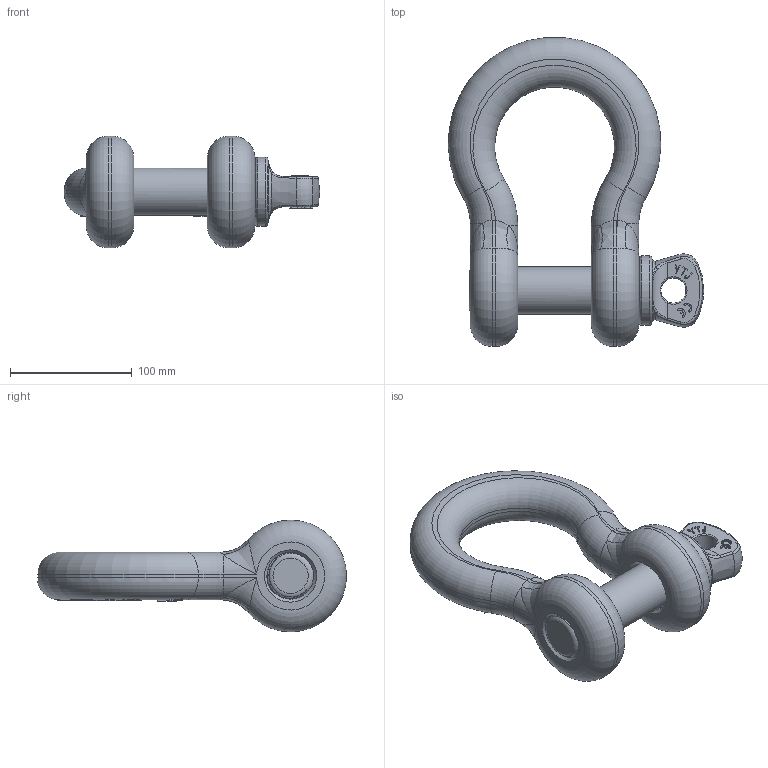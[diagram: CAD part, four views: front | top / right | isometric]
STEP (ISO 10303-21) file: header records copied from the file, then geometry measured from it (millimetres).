
FILE_DESCRIPTION(/* description */ (''),/* implementation_level */ '2;1');
FILE_NAME(/* name */ '209-1 1-2.stp',/* time_stamp */ '2025-04-08T08:13:56+08:00',/* author */ (''),/* organization */ (''),/* preprocessor_version */ 'ST-DEVELOPER v16',/* originating_system */ 'SIEMENS PLM Software NX 10.0',/* authorisation */ '');
FILE_SCHEMA (('AP203_CONFIGURATION_CONTROLLED_3D_DESIGN_OF_MECHANICAL_PARTS_AND_ASSEMBLIES_MIM_LF { 1 0 10303 403 2 1 2}'));
Length unit declared in the file: millimetre
Products named in the file (1): Admi20FC52B4dhnu
Bounding box: 210.2 x 254.22 x 92 mm (x, y, z)
Volume: 1062022.4 mm3; surface area: 124397.8 mm2
Topology: 2 solids, 2 shells, 551 faces, 1530 edges, 989 vertices
Faces by surface type: plane 227, extrusion 160, cylinder 71, bspline 48, torus 36, cone 8, sphere 1
Full cylindrical faces by diameter (mm): 20.6 x1, 39 x8, 41 x1, 57 x1
Entity records: 24950 total; most frequent: CARTESIAN_POINT 12645, ORIENTED_EDGE 2938, DIRECTION 1793, EDGE_CURVE 1469, VERTEX_POINT 960, B_SPLINE_CURVE_WITH_KNOTS 900, VECTOR 655, EDGE_LOOP 577
